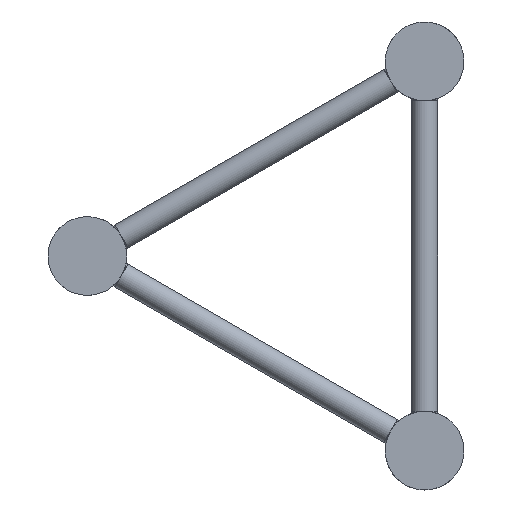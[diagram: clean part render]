
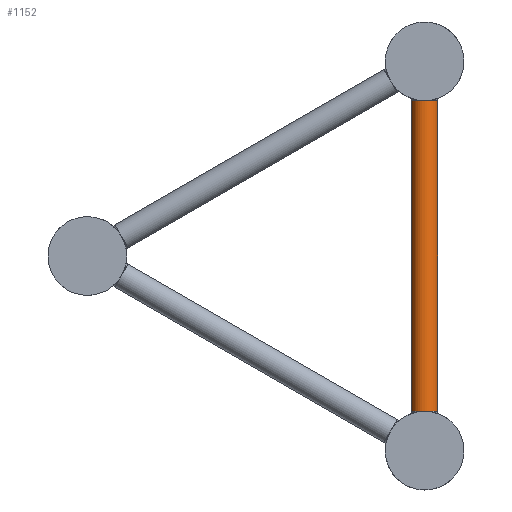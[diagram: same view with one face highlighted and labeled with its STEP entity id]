
A CAD part, left-side view. The second image highlights one B-rep face of the part: STEP entity #1152.
In plain terms, the highlighted cylindrical face has radius 8 mm (diameter 16 mm), a full revolution.
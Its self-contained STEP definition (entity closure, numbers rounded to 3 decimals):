
#135=FACE_BOUND('',#343,.T.);
#230=FACE_OUTER_BOUND('',#342,.T.);
#342=EDGE_LOOP('',(#876,#877));
#343=EDGE_LOOP('',(#878,#879));
#452=CIRCLE('',#1282,8.);
#453=CIRCLE('',#1284,8.);
#454=CIRCLE('',#1286,8.);
#455=CIRCLE('',#1287,8.);
#568=VERTEX_POINT('',#2416);
#569=VERTEX_POINT('',#2417);
#570=VERTEX_POINT('',#2421);
#571=VERTEX_POINT('',#2422);
#685=EDGE_CURVE('',#568,#569,#452,.T.);
#687=EDGE_CURVE('',#570,#571,#453,.T.);
#688=EDGE_CURVE('',#571,#570,#454,.T.);
#689=EDGE_CURVE('',#569,#568,#455,.T.);
#876=ORIENTED_EDGE('',*,*,#688,.F.);
#877=ORIENTED_EDGE('',*,*,#687,.F.);
#878=ORIENTED_EDGE('',*,*,#689,.F.);
#879=ORIENTED_EDGE('',*,*,#685,.F.);
#1007=CYLINDRICAL_SURFACE('',#1285,8.);
#1152=ADVANCED_FACE('',(#230,#135),#1007,.T.);
#1282=AXIS2_PLACEMENT_3D('',#2419,#1544,#1545);
#1284=AXIS2_PLACEMENT_3D('',#2424,#1549,#1550);
#1285=AXIS2_PLACEMENT_3D('',#2425,#1551,#1552);
#1286=AXIS2_PLACEMENT_3D('',#2426,#1553,#1554);
#1287=AXIS2_PLACEMENT_3D('',#2427,#1555,#1556);
#1544=DIRECTION('center_axis',(0.,0.,
-1.));
#1545=DIRECTION('ref_axis',(-1.,0.,0.));
#1549=DIRECTION('center_axis',(0.,0.,
1.));
#1550=DIRECTION('ref_axis',(-1.,0.,0.));
#1551=DIRECTION('center_axis',(0.,0.,
1.));
#1552=DIRECTION('ref_axis',(-1.,0.,0.));
#1553=DIRECTION('center_axis',(0.,0.,
1.));
#1554=DIRECTION('ref_axis',(-1.,0.,0.));
#1555=DIRECTION('center_axis',(0.,0.,
-1.));
#1556=DIRECTION('ref_axis',(-1.,0.,0.));
#2416=CARTESIAN_POINT('',(52.,0.,-214.85));
#2417=CARTESIAN_POINT('',(68.,0.,-214.85));
#2419=CARTESIAN_POINT('Origin',(60.,0.,-214.85));
#2421=CARTESIAN_POINT('',(52.,0.,-24.15));
#2422=CARTESIAN_POINT('',(68.,0.,-24.15));
#2424=CARTESIAN_POINT('Origin',(60.,0.,-24.15));
#2425=CARTESIAN_POINT('Origin',(60.,0.,-214.85));
#2426=CARTESIAN_POINT('Origin',(60.,0.,-24.15));
#2427=CARTESIAN_POINT('Origin',(60.,0.,-214.85));
